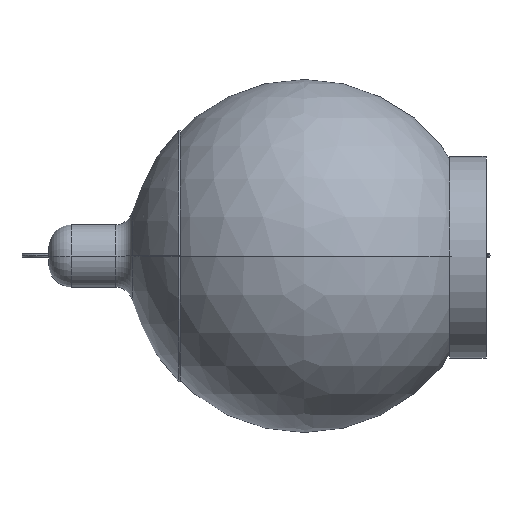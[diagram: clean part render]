
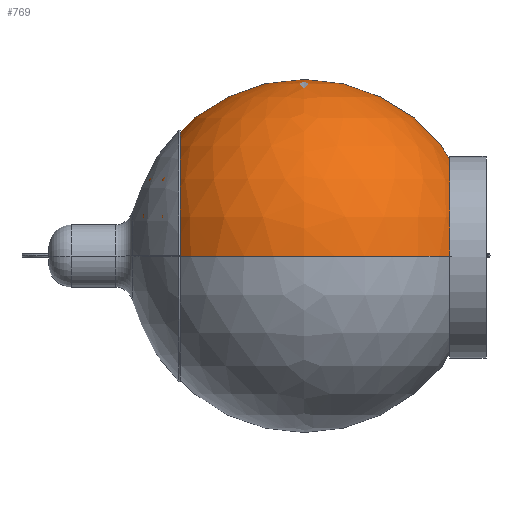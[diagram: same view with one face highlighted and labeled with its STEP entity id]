
A CAD part, left-side view. The second image highlights one B-rep face of the part: STEP entity #769.
In plain terms, the highlighted spherical face has radius 175 mm.
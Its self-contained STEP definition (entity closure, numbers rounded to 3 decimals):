
#10 = AXIS2_PLACEMENT_3D ( 'NONE', #1185, #714, #1053 ) ;
#23 = CIRCLE ( 'NONE', #10, 175. ) ;
#40 = AXIS2_PLACEMENT_3D ( 'NONE', #336, #1468, #919 ) ;
#95 = ORIENTED_EDGE ( 'NONE', *, *, #404, .T. ) ;
#118 = CIRCLE ( 'NONE', #40, 175. ) ;
#188 = FACE_OUTER_BOUND ( 'NONE', #1284, .T. ) ;
#291 = AXIS2_PLACEMENT_3D ( 'NONE', #1077, #392, #1417 ) ;
#296 = EDGE_CURVE ( 'NONE', #1425, #1384, #23, .T. ) ;
#336 = CARTESIAN_POINT ( 'NONE',  ( 0., 0., 0. ) ) ;
#392 = DIRECTION ( 'NONE',  ( 0., 0., -1. ) ) ;
#404 = EDGE_CURVE ( 'NONE', #1425, #1384, #118, .T. ) ;
#520 = CARTESIAN_POINT ( 'NONE',  ( 0., -175., 0. ) ) ;
#714 = DIRECTION ( 'NONE',  ( 0., 0., -1. ) ) ;
#769 = ADVANCED_FACE ( 'NONE', ( #188 ), #1061, .T. ) ;
#919 = DIRECTION ( 'NONE',  ( 1., 0., 0. ) ) ;
#1046 = ORIENTED_EDGE ( 'NONE', *, *, #296, .F. ) ;
#1053 = DIRECTION ( 'NONE',  ( -1., 0., 0. ) ) ;
#1061 = SPHERICAL_SURFACE ( 'NONE', #291, 175. ) ;
#1077 = CARTESIAN_POINT ( 'NONE',  ( 0., 0., 0. ) ) ;
#1185 = CARTESIAN_POINT ( 'NONE',  ( 0., 0., 0. ) ) ;
#1224 = CARTESIAN_POINT ( 'NONE',  ( 0., 175., 0. ) ) ;
#1284 = EDGE_LOOP ( 'NONE', ( #1046, #95 ) ) ;
#1384 = VERTEX_POINT ( 'NONE', #520 ) ;
#1417 = DIRECTION ( 'NONE',  ( -1., 0., 0. ) ) ;
#1425 = VERTEX_POINT ( 'NONE', #1224 ) ;
#1468 = DIRECTION ( 'NONE',  ( 0., 0., 1. ) ) ;
